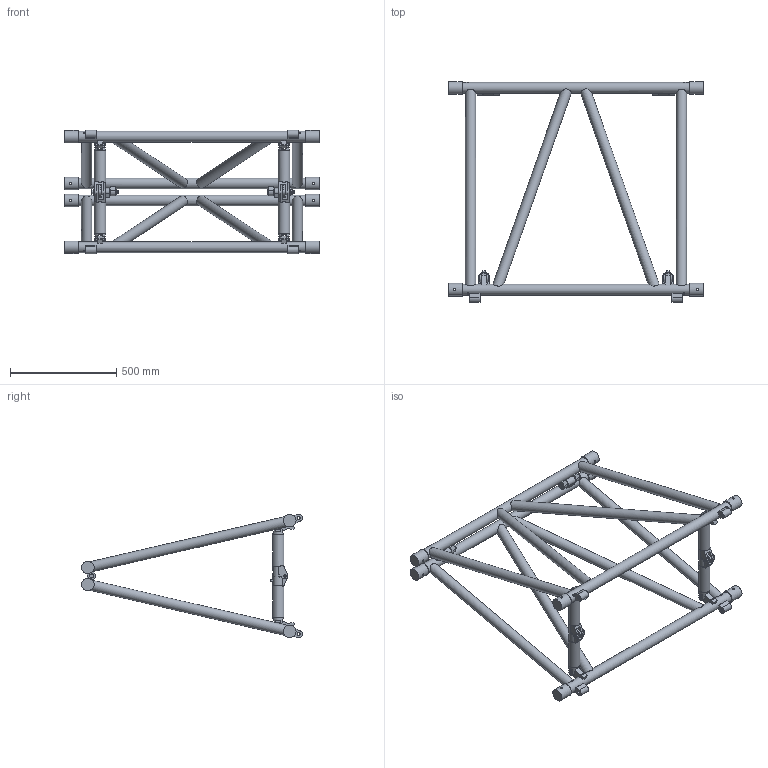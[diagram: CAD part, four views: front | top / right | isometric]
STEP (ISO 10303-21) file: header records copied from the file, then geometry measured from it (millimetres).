
FILE_DESCRIPTION(/* description */ (''),/* implementation_level */ '2;1');
FILE_NAME(/* name */ 'M:\Symbolen_NIEUW\STP\100-er truss\S100F\S100F-L120_111110032.stp',/* time_stamp */ '2017-11-30T15:09:45+01:00',/* author */ ('Kees'),/* organization */ (''),/* preprocessor_version */ 'ST-DEVELOPER v16.13',/* originating_system */ 'Autodesk Inventor 2018',/* authorisation */ '');
FILE_SCHEMA (('AUTOMOTIVE_DESIGN { 1 0 10303 214 3 1 1 }'));
Length unit declared in the file: millimetre
Products named in the file (1): 260009983
Bounding box: 1200 x 1038.68 x 580.51 mm (x, y, z)
Volume: 26449201.3 mm3; surface area: 2293215.2 mm2
Topology: 8 solids, 8 shells, 576 faces, 1488 edges, 974 vertices
Faces by surface type: plane 384, cylinder 154, cone 38
Full cylindrical faces by diameter (mm): 10 x8, 12 x12, 12.5 x10, 12.8 x8, 13 x12, 17.4 x4, 24 x4, 48.3 x8, 50 x8, 54 x4, 58.8 x8
Entity records: 19239 total; most frequent: CARTESIAN_POINT 4979, DIRECTION 2812, ORIENTED_EDGE 2708, EDGE_CURVE 1354, AXIS2_PLACEMENT_3D 1041, VERTEX_POINT 952, EDGE_LOOP 826, LINE 730
